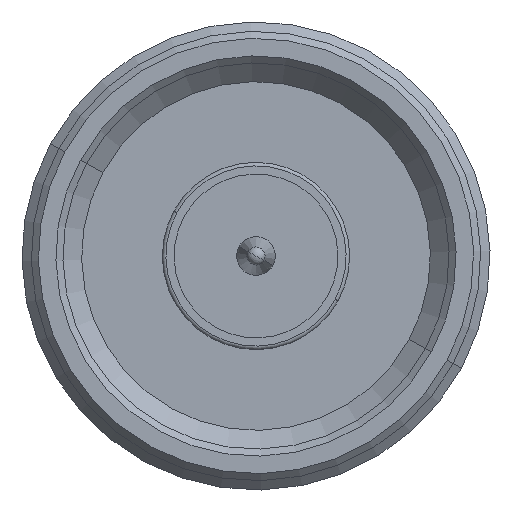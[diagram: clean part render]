
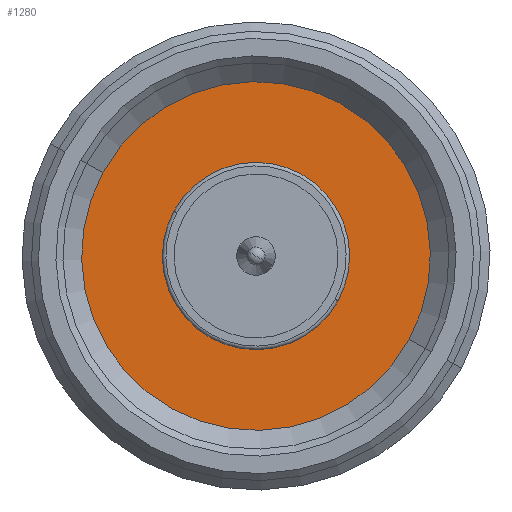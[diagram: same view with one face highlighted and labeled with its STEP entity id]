
A CAD part, left-side view. The second image highlights one B-rep face of the part: STEP entity #1280.
In plain terms, the highlighted planar face has unit normal (-1, 0, 0).
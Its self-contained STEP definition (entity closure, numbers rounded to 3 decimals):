
#304=CARTESIAN_POINT('Vertex',(11.2,3.51,1.918)) ;
#307=CARTESIAN_POINT('Axis2P3D Location',(11.2,0.,0.)) ;
#311=CARTESIAN_POINT('Vertex',(11.2,-3.51,-1.918)) ;
#326=CARTESIAN_POINT('Axis2P3D Location',(11.2,0.,0.)) ;
#347=CARTESIAN_POINT('Vertex',(11.2,7.24,3.955)) ;
#363=CARTESIAN_POINT('Vertex',(11.2,-7.24,-3.955)) ;
#366=CARTESIAN_POINT('Axis2P3D Location',(11.2,0.,0.)) ;
#383=CARTESIAN_POINT('Axis2P3D Location',(11.2,0.,0.)) ;
#1267=CARTESIAN_POINT('Axis2P3D Location',(11.2,-4.,0.)) ;
#308=DIRECTION('Axis2P3D Direction',(1.,0.,0.)) ;
#327=DIRECTION('Axis2P3D Direction',(1.,0.,0.)) ;
#367=DIRECTION('Axis2P3D Direction',(1.,0.,0.)) ;
#384=DIRECTION('Axis2P3D Direction',(1.,0.,0.)) ;
#1268=DIRECTION('Axis2P3D Direction',(1.,0.,0.)) ;
#1269=DIRECTION('Axis2P3D XDirection',(0.,1.,0.)) ;
#309=AXIS2_PLACEMENT_3D('Circle Axis2P3D',#307,#308,$) ;
#328=AXIS2_PLACEMENT_3D('Circle Axis2P3D',#326,#327,$) ;
#368=AXIS2_PLACEMENT_3D('Circle Axis2P3D',#366,#367,$) ;
#385=AXIS2_PLACEMENT_3D('Circle Axis2P3D',#383,#384,$) ;
#1270=AXIS2_PLACEMENT_3D('Plane Axis2P3D',#1267,#1268,#1269) ;
#1273=ORIENTED_EDGE('',*,*,#370,.F.) ;
#1274=ORIENTED_EDGE('',*,*,#387,.F.) ;
#1277=ORIENTED_EDGE('',*,*,#330,.T.) ;
#1278=ORIENTED_EDGE('',*,*,#313,.T.) ;
#1279=FACE_BOUND('',#1276,.T.) ;
#1280=ADVANCED_FACE('',(#1275,#1279),#1271,.F.) ;
#310=CIRCLE('generated circle',#309,4.) ;
#329=CIRCLE('generated circle',#328,4.) ;
#369=CIRCLE('generated circle',#368,8.25) ;
#386=CIRCLE('generated circle',#385,8.25) ;
#313=EDGE_CURVE('',#312,#305,#310,.T.) ;
#330=EDGE_CURVE('',#305,#312,#329,.T.) ;
#370=EDGE_CURVE('',#364,#348,#369,.T.) ;
#387=EDGE_CURVE('',#348,#364,#386,.T.) ;
#1272=EDGE_LOOP('',(#1273,#1274)) ;
#1276=EDGE_LOOP('',(#1277,#1278)) ;
#1275=FACE_OUTER_BOUND('',#1272,.T.) ;
#1271=PLANE('Plane',#1270) ;
#305=VERTEX_POINT('',#304) ;
#312=VERTEX_POINT('',#311) ;
#348=VERTEX_POINT('',#347) ;
#364=VERTEX_POINT('',#363) ;
